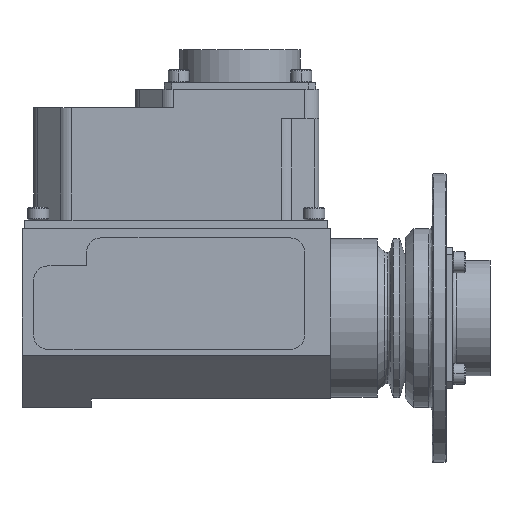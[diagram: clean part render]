
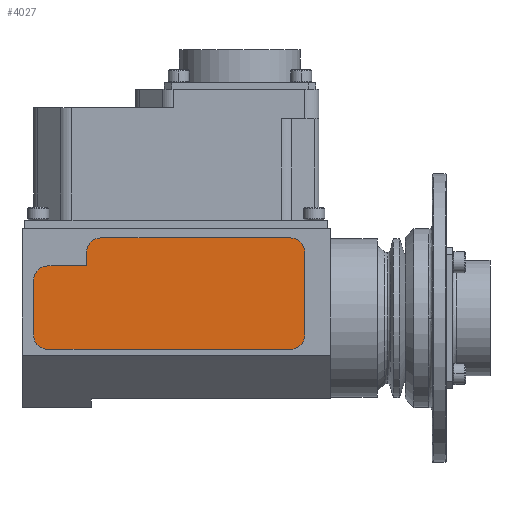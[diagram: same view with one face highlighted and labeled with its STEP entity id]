
A CAD part, left-side view. The second image highlights one B-rep face of the part: STEP entity #4027.
In plain terms, the highlighted planar face has unit normal (-1, 0, 0).
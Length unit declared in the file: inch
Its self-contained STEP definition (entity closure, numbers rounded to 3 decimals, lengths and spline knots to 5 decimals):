
#100 = VECTOR ( 'NONE', #5498, 39.37008 ) ;
#309 = CIRCLE ( 'NONE', #4392, 0.125 ) ;
#416 = ORIENTED_EDGE ( 'NONE', *, *, #16556, .T. ) ;
#854 = DIRECTION ( 'NONE',  ( 0., 1., 0. ) ) ;
#1235 = VERTEX_POINT ( 'NONE', #14127 ) ;
#1293 = DIRECTION ( 'NONE',  ( 0., 1., 0. ) ) ;
#1333 = VERTEX_POINT ( 'NONE', #10397 ) ;
#1920 = DIRECTION ( 'NONE',  ( 0., 0., 1. ) ) ;
#1933 = CARTESIAN_POINT ( 'NONE',  ( -0.74, 1.2255, -0.146 ) ) ;
#1987 = CARTESIAN_POINT ( 'NONE',  ( -0.74, 1.3505, 0.695 ) ) ;
#2254 = DIRECTION ( 'NONE',  ( 1., 0., 0. ) ) ;
#2310 = VECTOR ( 'NONE', #11068, 39.37008 ) ;
#2529 = VECTOR ( 'NONE', #854, 39.37008 ) ;
#2610 = CARTESIAN_POINT ( 'NONE',  ( -0.74, 3.1175, 0.452 ) ) ;
#2863 = VERTEX_POINT ( 'NONE', #9657 ) ;
#3145 = CARTESIAN_POINT ( 'NONE',  ( -0.74, 3.4515, 0.327 ) ) ;
#3296 = VERTEX_POINT ( 'NONE', #14644 ) ;
#3386 = CARTESIAN_POINT ( 'NONE',  ( -0.74, 1.3505, -0.146 ) ) ;
#3671 = ORIENTED_EDGE ( 'NONE', *, *, #10409, .T. ) ;
#3767 = ORIENTED_EDGE ( 'NONE', *, *, #5790, .T. ) ;
#3802 = CARTESIAN_POINT ( 'NONE',  ( -0.74, 1.2255, 0.57 ) ) ;
#3884 = DIRECTION ( 'NONE',  ( 0., 0., -1. ) ) ;
#4027 = ADVANCED_FACE ( 'NONE', ( #16189 ), #15526, .F. ) ;
#4236 = CARTESIAN_POINT ( 'NONE',  ( -0.74, 1.2255, 0.57 ) ) ;
#4392 = AXIS2_PLACEMENT_3D ( 'NONE', #3386, #10098, #12671 ) ;
#4394 = CARTESIAN_POINT ( 'NONE',  ( -0.74, 3.1175, 0.57 ) ) ;
#4567 = VERTEX_POINT ( 'NONE', #1987 ) ;
#4853 = CIRCLE ( 'NONE', #11581, 0.125 ) ;
#5112 = EDGE_CURVE ( 'NONE', #6044, #4567, #6706, .T. ) ;
#5127 = CARTESIAN_POINT ( 'NONE',  ( -0.74, 2.9925, 0.57 ) ) ;
#5371 = DIRECTION ( 'NONE',  ( 0., 0., 1. ) ) ;
#5498 = DIRECTION ( 'NONE',  ( 0., 0., 1. ) ) ;
#5790 = EDGE_CURVE ( 'NONE', #4567, #1235, #9372, .T. ) ;
#5821 = LINE ( 'NONE', #13608, #2310 ) ;
#5861 = ORIENTED_EDGE ( 'NONE', *, *, #10577, .T. ) ;
#5932 = ORIENTED_EDGE ( 'NONE', *, *, #13448, .T. ) ;
#6044 = VERTEX_POINT ( 'NONE', #3802 ) ;
#6281 = ORIENTED_EDGE ( 'NONE', *, *, #16342, .T. ) ;
#6295 = ORIENTED_EDGE ( 'NONE', *, *, #8695, .T. ) ;
#6526 = AXIS2_PLACEMENT_3D ( 'NONE', #7136, #12464, #1920 ) ;
#6706 = CIRCLE ( 'NONE', #6526, 0.125 ) ;
#6950 = AXIS2_PLACEMENT_3D ( 'NONE', #7516, #2254, #10099 ) ;
#7136 = CARTESIAN_POINT ( 'NONE',  ( -0.74, 1.3505, 0.57 ) ) ;
#7226 = VERTEX_POINT ( 'NONE', #12105 ) ;
#7516 = CARTESIAN_POINT ( 'NONE',  ( -0.74, 3.4515, 0.327 ) ) ;
#8187 = EDGE_CURVE ( 'NONE', #16339, #1333, #13218, .T. ) ;
#8465 = CARTESIAN_POINT ( 'NONE',  ( -0.74, 1.3505, -0.271 ) ) ;
#8695 = EDGE_CURVE ( 'NONE', #1333, #3296, #15498, .T. ) ;
#8829 = CIRCLE ( 'NONE', #11230, 0.125 ) ;
#9138 = VECTOR ( 'NONE', #13751, 39.37008 ) ;
#9372 = LINE ( 'NONE', #11176, #2529 ) ;
#9657 = CARTESIAN_POINT ( 'NONE',  ( -0.74, 3.5765, 0.327 ) ) ;
#9969 = LINE ( 'NONE', #8465, #9138 ) ;
#9986 = EDGE_CURVE ( 'NONE', #10348, #7226, #12132, .T. ) ;
#10098 = DIRECTION ( 'NONE',  ( -1., 0., 0. ) ) ;
#10099 = DIRECTION ( 'NONE',  ( 0., 0., -1. ) ) ;
#10348 = VERTEX_POINT ( 'NONE', #15911 ) ;
#10353 = ORIENTED_EDGE ( 'NONE', *, *, #15991, .T. ) ;
#10397 = CARTESIAN_POINT ( 'NONE',  ( -0.74, 3.1175, 0.452 ) ) ;
#10409 = EDGE_CURVE ( 'NONE', #10721, #6044, #12534, .T. ) ;
#10577 = EDGE_CURVE ( 'NONE', #3296, #2863, #4853, .T. ) ;
#10721 = VERTEX_POINT ( 'NONE', #1933 ) ;
#10795 = AXIS2_PLACEMENT_3D ( 'NONE', #11179, #11122, #13775 ) ;
#11068 = DIRECTION ( 'NONE',  ( 0., 0., -1. ) ) ;
#11122 = DIRECTION ( 'NONE',  ( -1., 0., 0. ) ) ;
#11176 = CARTESIAN_POINT ( 'NONE',  ( -0.74, 1.3505, 0.695 ) ) ;
#11179 = CARTESIAN_POINT ( 'NONE',  ( -0.74, 3.4515, -0.146 ) ) ;
#11230 = AXIS2_PLACEMENT_3D ( 'NONE', #5127, #13544, #5371 ) ;
#11367 = VECTOR ( 'NONE', #3884, 39.37008 ) ;
#11581 = AXIS2_PLACEMENT_3D ( 'NONE', #3145, #12303, #15099 ) ;
#11818 = VERTEX_POINT ( 'NONE', #14875 ) ;
#11949 = VECTOR ( 'NONE', #1293, 39.37008 ) ;
#12105 = CARTESIAN_POINT ( 'NONE',  ( -0.74, 3.4515, -0.271 ) ) ;
#12132 = CIRCLE ( 'NONE', #10795, 0.125 ) ;
#12303 = DIRECTION ( 'NONE',  ( -1., 0., 0. ) ) ;
#12464 = DIRECTION ( 'NONE',  ( -1., 0., 0. ) ) ;
#12534 = LINE ( 'NONE', #4236, #100 ) ;
#12671 = DIRECTION ( 'NONE',  ( 0., 0., 1. ) ) ;
#13218 = LINE ( 'NONE', #14269, #11367 ) ;
#13277 = ORIENTED_EDGE ( 'NONE', *, *, #8187, .T. ) ;
#13448 = EDGE_CURVE ( 'NONE', #11818, #10721, #309, .T. ) ;
#13544 = DIRECTION ( 'NONE',  ( -1., 0., 0. ) ) ;
#13608 = CARTESIAN_POINT ( 'NONE',  ( -0.74, 3.5765, 0.327 ) ) ;
#13633 = EDGE_LOOP ( 'NONE', ( #6295, #5861, #6281, #14892, #10353, #5932, #3671, #14280, #3767, #416, #13277 ) ) ;
#13751 = DIRECTION ( 'NONE',  ( 0., -1., 0. ) ) ;
#13775 = DIRECTION ( 'NONE',  ( 0., 0., 1. ) ) ;
#14127 = CARTESIAN_POINT ( 'NONE',  ( -0.74, 2.9925, 0.695 ) ) ;
#14269 = CARTESIAN_POINT ( 'NONE',  ( -0.74, 3.1175, 0.57 ) ) ;
#14280 = ORIENTED_EDGE ( 'NONE', *, *, #5112, .T. ) ;
#14644 = CARTESIAN_POINT ( 'NONE',  ( -0.74, 3.4515, 0.452 ) ) ;
#14875 = CARTESIAN_POINT ( 'NONE',  ( -0.74, 1.3505, -0.271 ) ) ;
#14892 = ORIENTED_EDGE ( 'NONE', *, *, #9986, .T. ) ;
#15099 = DIRECTION ( 'NONE',  ( 0., 0., 1. ) ) ;
#15498 = LINE ( 'NONE', #2610, #11949 ) ;
#15526 = PLANE ( 'NONE',  #6950 ) ;
#15911 = CARTESIAN_POINT ( 'NONE',  ( -0.74, 3.5765, -0.146 ) ) ;
#15991 = EDGE_CURVE ( 'NONE', #7226, #11818, #9969, .T. ) ;
#16189 = FACE_OUTER_BOUND ( 'NONE', #13633, .T. ) ;
#16339 = VERTEX_POINT ( 'NONE', #4394 ) ;
#16342 = EDGE_CURVE ( 'NONE', #2863, #10348, #5821, .T. ) ;
#16556 = EDGE_CURVE ( 'NONE', #1235, #16339, #8829, .T. ) ;
